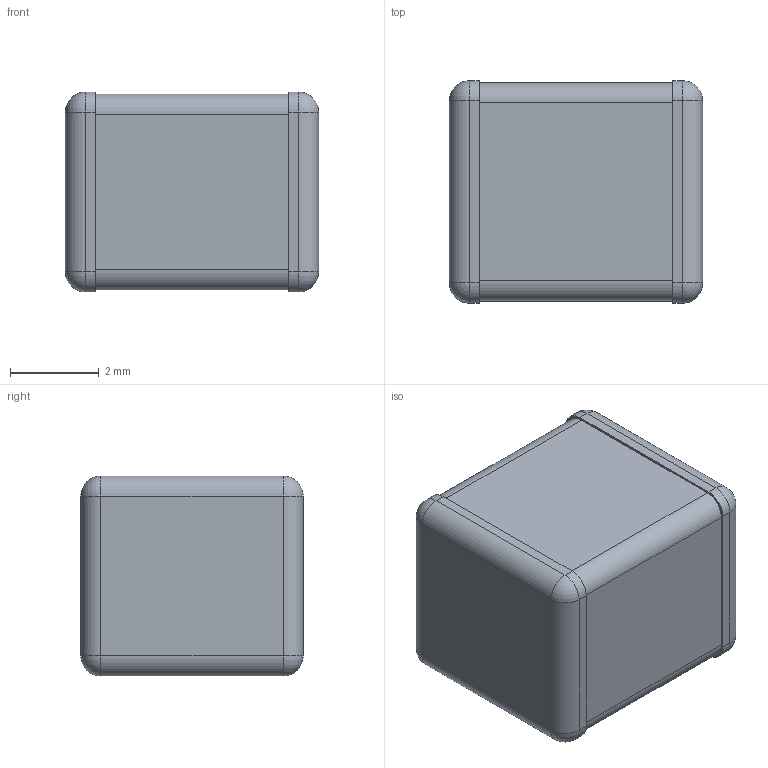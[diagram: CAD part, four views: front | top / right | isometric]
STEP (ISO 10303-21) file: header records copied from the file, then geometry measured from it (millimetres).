
FILE_DESCRIPTION(('FreeCAD Model'),'2;1');
FILE_NAME('/var/www/3D/0T/1595950.1.1.stp','2023-08-22T08:33:24',( 'Author'),(''),'Open CASCADE STEP processor 6.9','FreeCAD','Unknown' );
FILE_SCHEMA(('AUTOMOTIVE_DESIGN { 1 0 10303 214 1 1 1 1 }'));
Length unit declared in the file: millimetre
Products named in the file (4): ASSEMBLY; Fillet1; Fillet2; body2
Assembly tree (3 placements, depth 2):
  ASSEMBLY
    Fillet1
    Fillet2
    body2
Bounding box: 5.7 x 5 x 4.5 mm (x, y, z)
Volume: 121.9 mm3; surface area: 227.2 mm2
Topology: 3 solids, 3 shells, 46 faces, 104 edges, 56 vertices
Faces by surface type: cylinder 20, plane 18, sphere 8
Entity records: 2540 total; most frequent: CARTESIAN_POINT 474, DIRECTION 388, LINE 200, VECTOR 200, ORIENTED_EDGE 192, PCURVE 192, DEFINITIONAL_REPRESENTATION 192, EDGE_CURVE 96
